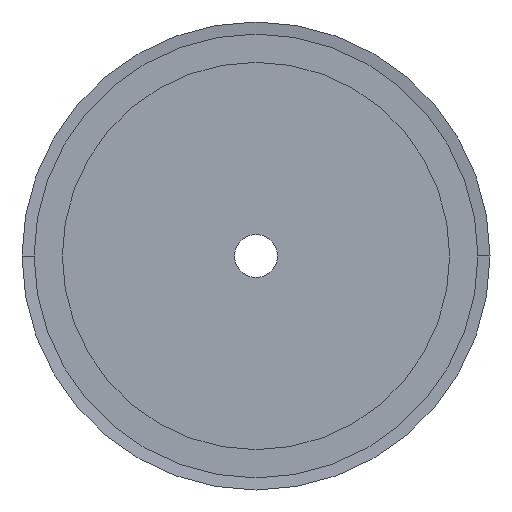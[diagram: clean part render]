
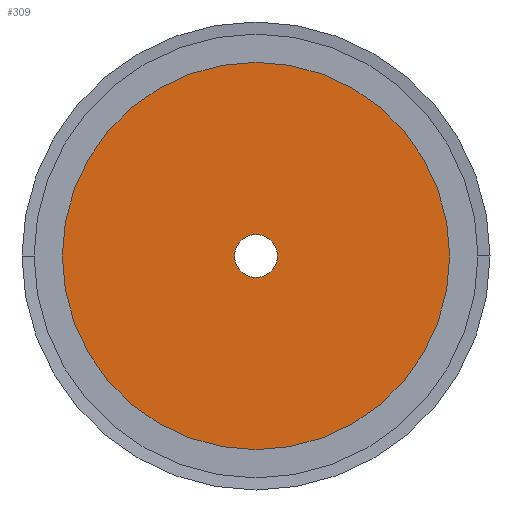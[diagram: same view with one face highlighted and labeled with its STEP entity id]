
A CAD part, left-side view. The second image highlights one B-rep face of the part: STEP entity #309.
In plain terms, the highlighted planar face has unit normal (-1, 0, 0).
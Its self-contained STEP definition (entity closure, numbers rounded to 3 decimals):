
#309 = ADVANCED_FACE( '', ( #785, #786 ), #787, .T. );
#785 = FACE_BOUND( '', #1262, .T. );
#786 = FACE_OUTER_BOUND( '', #1263, .T. );
#787 = PLANE( '', #1264 );
#1262 = EDGE_LOOP( '', ( #3315, #3316 ) );
#1263 = EDGE_LOOP( '', ( #3317, #3318 ) );
#1264 = AXIS2_PLACEMENT_3D( '', #3319, #3320, #3321 );
#3315 = ORIENTED_EDGE( '', *, *, #3992, .F. );
#3316 = ORIENTED_EDGE( '', *, *, #3337, .F. );
#3317 = ORIENTED_EDGE( '', *, *, #3325, .T. );
#3318 = ORIENTED_EDGE( '', *, *, #3997, .T. );
#3319 = CARTESIAN_POINT( '', ( 0., 20., 0. ) );
#3320 = DIRECTION( '', ( -1., 0., 0. ) );
#3321 = DIRECTION( '', ( 0., 1., 0. ) );
#3325 = EDGE_CURVE( '', #3999, #4003, #4005, .T. );
#3337 = EDGE_CURVE( '', #4027, #4023, #4029, .T. );
#3992 = EDGE_CURVE( '', #4023, #4027, #5116, .T. );
#3997 = EDGE_CURVE( '', #4003, #3999, #5121, .T. );
#3999 = VERTEX_POINT( '', #5123 );
#4003 = VERTEX_POINT( '', #5128 );
#4005 = CIRCLE( '', #5131, 36. );
#4023 = VERTEX_POINT( '', #5153 );
#4027 = VERTEX_POINT( '', #5158 );
#4029 = CIRCLE( '', #5161, 4. );
#5116 = CIRCLE( '', #6624, 4. );
#5121 = CIRCLE( '', #6629, 36. );
#5123 = CARTESIAN_POINT( '', ( 0., 36., 0. ) );
#5128 = CARTESIAN_POINT( '', ( 0., -36., 0. ) );
#5131 = AXIS2_PLACEMENT_3D( '', #6635, #6636, #6637 );
#5153 = CARTESIAN_POINT( '', ( 0., 4., 0. ) );
#5158 = CARTESIAN_POINT( '', ( 0., -4., 0. ) );
#5161 = AXIS2_PLACEMENT_3D( '', #6659, #6660, #6661 );
#6624 = AXIS2_PLACEMENT_3D( '', #7872, #7873, #7874 );
#6629 = AXIS2_PLACEMENT_3D( '', #7887, #7888, #7889 );
#6635 = CARTESIAN_POINT( '', ( 0., 0., 0. ) );
#6636 = DIRECTION( '', ( -1., 0., 0. ) );
#6637 = DIRECTION( '', ( 0., 1., 0. ) );
#6659 = CARTESIAN_POINT( '', ( 0., 0., 0. ) );
#6660 = DIRECTION( '', ( -1., 0., 0. ) );
#6661 = DIRECTION( '', ( 0., 1., 0. ) );
#7872 = CARTESIAN_POINT( '', ( 0., 0., 0. ) );
#7873 = DIRECTION( '', ( -1., 0., 0. ) );
#7874 = DIRECTION( '', ( 0., 1., 0. ) );
#7887 = CARTESIAN_POINT( '', ( 0., 0., 0. ) );
#7888 = DIRECTION( '', ( -1., 0., 0. ) );
#7889 = DIRECTION( '', ( 0., 1., 0. ) );
